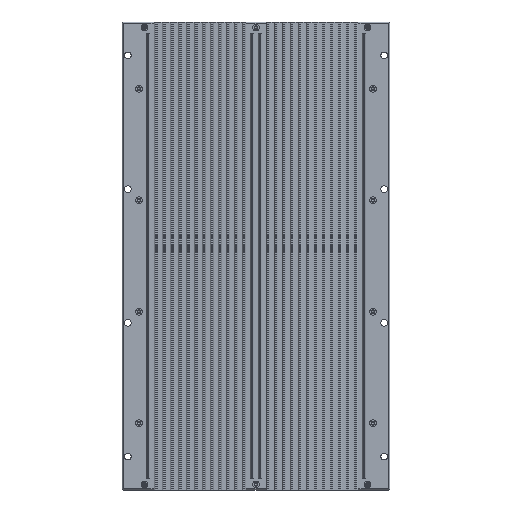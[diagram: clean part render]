
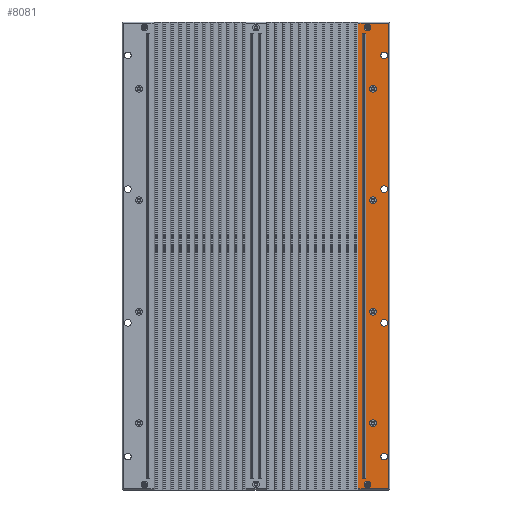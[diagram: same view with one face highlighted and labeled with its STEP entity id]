
A CAD part, front view. The second image highlights one B-rep face of the part: STEP entity #8081.
In plain terms, the highlighted planar face has unit normal (0, -1, 0).
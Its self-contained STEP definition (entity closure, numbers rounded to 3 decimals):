
#385=DIRECTION('',(1.,0.,0.));
#386=VECTOR('',#385,3.);
#387=CARTESIAN_POINT('',(95.4,-5.,200.));
#388=LINE('',#387,#386);
#389=DIRECTION('',(0.,0.,-1.));
#390=VECTOR('',#389,400.);
#391=CARTESIAN_POINT('',(95.4,-5.,200.));
#392=LINE('',#391,#390);
#393=DIRECTION('',(-1.,0.,0.));
#394=VECTOR('',#393,3.);
#395=CARTESIAN_POINT('',(98.4,-5.,-200.));
#396=LINE('',#395,#394);
#409=CARTESIAN_POINT('',(100.,-5.,-205.));
#410=DIRECTION('',(0.,-1.,0.));
#411=DIRECTION('',(1.,0.,0.));
#412=AXIS2_PLACEMENT_3D('',#409,#410,#411);
#414=CARTESIAN_POINT('',(100.,-5.,-205.));
#415=DIRECTION('',(0.,-1.,0.));
#416=DIRECTION('',(-1.,0.,0.));
#417=AXIS2_PLACEMENT_3D('',#414,#415,#416);
#419=CARTESIAN_POINT('',(105.,-5.,150.));
#420=DIRECTION('',(0.,-1.,0.));
#421=DIRECTION('',(-1.,0.,0.));
#422=AXIS2_PLACEMENT_3D('',#419,#420,#421);
#424=CARTESIAN_POINT('',(105.,-5.,150.));
#425=DIRECTION('',(0.,-1.,0.));
#426=DIRECTION('',(1.,0.,0.));
#427=AXIS2_PLACEMENT_3D('',#424,#425,#426);
#429=CARTESIAN_POINT('',(105.,-5.,50.));
#430=DIRECTION('',(0.,-1.,0.));
#431=DIRECTION('',(-1.,0.,0.));
#432=AXIS2_PLACEMENT_3D('',#429,#430,#431);
#434=CARTESIAN_POINT('',(105.,-5.,50.));
#435=DIRECTION('',(0.,-1.,0.));
#436=DIRECTION('',(1.,0.,0.));
#437=AXIS2_PLACEMENT_3D('',#434,#435,#436);
#439=CARTESIAN_POINT('',(105.,-5.,-50.));
#440=DIRECTION('',(0.,-1.,0.));
#441=DIRECTION('',(-1.,0.,0.));
#442=AXIS2_PLACEMENT_3D('',#439,#440,#441);
#444=CARTESIAN_POINT('',(105.,-5.,-50.));
#445=DIRECTION('',(0.,-1.,0.));
#446=DIRECTION('',(1.,0.,0.));
#447=AXIS2_PLACEMENT_3D('',#444,#445,#446);
#449=CARTESIAN_POINT('',(105.,-5.,-150.));
#450=DIRECTION('',(0.,-1.,0.));
#451=DIRECTION('',(-1.,0.,0.));
#452=AXIS2_PLACEMENT_3D('',#449,#450,#451);
#454=CARTESIAN_POINT('',(105.,-5.,-150.));
#455=DIRECTION('',(0.,-1.,0.));
#456=DIRECTION('',(1.,0.,0.));
#457=AXIS2_PLACEMENT_3D('',#454,#455,#456);
#459=CARTESIAN_POINT('',(100.,-5.,205.));
#460=DIRECTION('',(0.,-1.,0.));
#461=DIRECTION('',(1.,0.,0.));
#462=AXIS2_PLACEMENT_3D('',#459,#460,#461);
#464=CARTESIAN_POINT('',(100.,-5.,205.));
#465=DIRECTION('',(0.,-1.,0.));
#466=DIRECTION('',(-1.,0.,0.));
#467=AXIS2_PLACEMENT_3D('',#464,#465,#466);
#469=DIRECTION('',(1.,0.,0.));
#470=VECTOR('',#469,27.503);
#471=CARTESIAN_POINT('',(91.497,-5.,-209.));
#472=LINE('',#471,#470);
#473=DIRECTION('',(-1.,0.,0.));
#474=VECTOR('',#473,27.503);
#475=CARTESIAN_POINT('',(119.,-5.,209.));
#476=LINE('',#475,#474);
#477=DIRECTION('',(0.,0.,1.));
#478=VECTOR('',#477,418.);
#479=CARTESIAN_POINT('',(119.,-5.,-209.));
#480=LINE('',#479,#478);
#549=CARTESIAN_POINT('',(115.,-5.,-180.));
#550=DIRECTION('',(0.,1.,0.));
#551=DIRECTION('',(0.,0.,1.));
#552=AXIS2_PLACEMENT_3D('',#549,#550,#551);
#554=CARTESIAN_POINT('',(115.,-5.,-180.));
#555=DIRECTION('',(0.,1.,0.));
#556=DIRECTION('',(0.,0.,-1.));
#557=AXIS2_PLACEMENT_3D('',#554,#555,#556);
#559=CARTESIAN_POINT('',(115.,-5.,-60.));
#560=DIRECTION('',(0.,1.,0.));
#561=DIRECTION('',(0.,0.,1.));
#562=AXIS2_PLACEMENT_3D('',#559,#560,#561);
#564=CARTESIAN_POINT('',(115.,-5.,-60.));
#565=DIRECTION('',(0.,1.,0.));
#566=DIRECTION('',(0.,0.,-1.));
#567=AXIS2_PLACEMENT_3D('',#564,#565,#566);
#569=CARTESIAN_POINT('',(115.,-5.,60.));
#570=DIRECTION('',(0.,1.,0.));
#571=DIRECTION('',(0.,0.,1.));
#572=AXIS2_PLACEMENT_3D('',#569,#570,#571);
#574=CARTESIAN_POINT('',(115.,-5.,60.));
#575=DIRECTION('',(0.,1.,0.));
#576=DIRECTION('',(0.,0.,-1.));
#577=AXIS2_PLACEMENT_3D('',#574,#575,#576);
#579=CARTESIAN_POINT('',(115.,-5.,180.));
#580=DIRECTION('',(0.,1.,0.));
#581=DIRECTION('',(0.,0.,1.));
#582=AXIS2_PLACEMENT_3D('',#579,#580,#581);
#584=CARTESIAN_POINT('',(115.,-5.,180.));
#585=DIRECTION('',(0.,1.,0.));
#586=DIRECTION('',(0.,0.,-1.));
#587=AXIS2_PLACEMENT_3D('',#584,#585,#586);
#849=DIRECTION('',(0.,0.,-1.));
#850=VECTOR('',#849,400.);
#851=CARTESIAN_POINT('',(98.4,-5.,200.));
#852=LINE('',#851,#850);
#4617=DIRECTION('',(0.,0.,-1.));
#4618=VECTOR('',#4617,418.);
#4619=CARTESIAN_POINT('',(91.497,-5.,209.));
#4620=LINE('',#4619,#4618);
#6397=CARTESIAN_POINT('',(102.,-5.,150.));
#6398=CARTESIAN_POINT('',(108.,-5.,150.));
#6399=VERTEX_POINT('',#6397);
#6400=VERTEX_POINT('',#6398);
#6401=CARTESIAN_POINT('',(102.,-5.,50.));
#6402=CARTESIAN_POINT('',(108.,-5.,50.));
#6403=VERTEX_POINT('',#6401);
#6404=VERTEX_POINT('',#6402);
#6405=CARTESIAN_POINT('',(102.,-5.,-50.));
#6406=CARTESIAN_POINT('',(108.,-5.,-50.));
#6407=VERTEX_POINT('',#6405);
#6408=VERTEX_POINT('',#6406);
#6409=CARTESIAN_POINT('',(102.,-5.,-150.));
#6410=CARTESIAN_POINT('',(108.,-5.,-150.));
#6411=VERTEX_POINT('',#6409);
#6412=VERTEX_POINT('',#6410);
#6487=CARTESIAN_POINT('',(103.,-5.,205.));
#6488=VERTEX_POINT('',#6487);
#6489=CARTESIAN_POINT('',(103.,-5.,-205.));
#6490=VERTEX_POINT('',#6489);
#6493=CARTESIAN_POINT('',(98.4,-5.,-200.));
#6495=VERTEX_POINT('',#6493);
#6497=CARTESIAN_POINT('',(98.4,-5.,200.));
#6499=VERTEX_POINT('',#6497);
#6513=CARTESIAN_POINT('',(95.4,-5.,-200.));
#6514=VERTEX_POINT('',#6513);
#6515=CARTESIAN_POINT('',(95.4,-5.,200.));
#6516=VERTEX_POINT('',#6515);
#6595=CARTESIAN_POINT('',(97.,-5.,205.));
#6596=VERTEX_POINT('',#6595);
#6597=CARTESIAN_POINT('',(97.,-5.,-205.));
#6598=VERTEX_POINT('',#6597);
#6621=CARTESIAN_POINT('',(91.497,-5.,-209.));
#6622=CARTESIAN_POINT('',(119.,-5.,-209.));
#6623=VERTEX_POINT('',#6621);
#6624=VERTEX_POINT('',#6622);
#6627=CARTESIAN_POINT('',(119.,-5.,209.));
#6628=VERTEX_POINT('',#6627);
#6631=CARTESIAN_POINT('',(91.497,-5.,209.));
#6632=VERTEX_POINT('',#6631);
#6717=CARTESIAN_POINT('',(115.,-5.,-177.));
#6718=CARTESIAN_POINT('',(115.,-5.,-183.));
#6719=VERTEX_POINT('',#6717);
#6720=VERTEX_POINT('',#6718);
#6725=CARTESIAN_POINT('',(115.,-5.,-57.));
#6726=CARTESIAN_POINT('',(115.,-5.,-63.));
#6727=VERTEX_POINT('',#6725);
#6728=VERTEX_POINT('',#6726);
#6733=CARTESIAN_POINT('',(115.,-5.,63.));
#6734=CARTESIAN_POINT('',(115.,-5.,57.));
#6735=VERTEX_POINT('',#6733);
#6736=VERTEX_POINT('',#6734);
#6741=CARTESIAN_POINT('',(115.,-5.,183.));
#6742=CARTESIAN_POINT('',(115.,-5.,177.));
#6743=VERTEX_POINT('',#6741);
#6744=VERTEX_POINT('',#6742);
#7996=CARTESIAN_POINT('',(120.,-5.,210.));
#7997=DIRECTION('',(0.,-1.,0.));
#7998=DIRECTION('',(-1.,0.,0.));
#7999=AXIS2_PLACEMENT_3D('',#7996,#7997,#7998);
#8000=PLANE('',#7999);
#8002=ORIENTED_EDGE('',*,*,#8001,.F.);
#8004=ORIENTED_EDGE('',*,*,#8003,.F.);
#8006=ORIENTED_EDGE('',*,*,#8005,.F.);
#8008=ORIENTED_EDGE('',*,*,#8007,.F.);
#8009=EDGE_LOOP('',(#8002,#8004,#8006,#8008));
#8010=FACE_OUTER_BOUND('',#8009,.F.);
#8012=ORIENTED_EDGE('',*,*,#8011,.F.);
#8014=ORIENTED_EDGE('',*,*,#8013,.T.);
#8016=ORIENTED_EDGE('',*,*,#8015,.F.);
#8018=ORIENTED_EDGE('',*,*,#8017,.F.);
#8019=EDGE_LOOP('',(#8012,#8014,#8016,#8018));
#8020=FACE_BOUND('',#8019,.F.);
#8022=ORIENTED_EDGE('',*,*,#8021,.T.);
#8024=ORIENTED_EDGE('',*,*,#8023,.T.);
#8025=EDGE_LOOP('',(#8022,#8024));
#8026=FACE_BOUND('',#8025,.F.);
#8028=ORIENTED_EDGE('',*,*,#8027,.T.);
#8030=ORIENTED_EDGE('',*,*,#8029,.T.);
#8031=EDGE_LOOP('',(#8028,#8030));
#8032=FACE_BOUND('',#8031,.F.);
#8034=ORIENTED_EDGE('',*,*,#8033,.T.);
#8036=ORIENTED_EDGE('',*,*,#8035,.T.);
#8037=EDGE_LOOP('',(#8034,#8036));
#8038=FACE_BOUND('',#8037,.F.);
#8040=ORIENTED_EDGE('',*,*,#8039,.T.);
#8042=ORIENTED_EDGE('',*,*,#8041,.T.);
#8043=EDGE_LOOP('',(#8040,#8042));
#8044=FACE_BOUND('',#8043,.F.);
#8046=ORIENTED_EDGE('',*,*,#8045,.T.);
#8048=ORIENTED_EDGE('',*,*,#8047,.T.);
#8049=EDGE_LOOP('',(#8046,#8048));
#8050=FACE_BOUND('',#8049,.F.);
#8052=ORIENTED_EDGE('',*,*,#8051,.T.);
#8054=ORIENTED_EDGE('',*,*,#8053,.T.);
#8055=EDGE_LOOP('',(#8052,#8054));
#8056=FACE_BOUND('',#8055,.F.);
#8058=ORIENTED_EDGE('',*,*,#8057,.F.);
#8060=ORIENTED_EDGE('',*,*,#8059,.F.);
#8061=EDGE_LOOP('',(#8058,#8060));
#8062=FACE_BOUND('',#8061,.F.);
#8064=ORIENTED_EDGE('',*,*,#8063,.F.);
#8066=ORIENTED_EDGE('',*,*,#8065,.F.);
#8067=EDGE_LOOP('',(#8064,#8066));
#8068=FACE_BOUND('',#8067,.F.);
#8070=ORIENTED_EDGE('',*,*,#8069,.F.);
#8072=ORIENTED_EDGE('',*,*,#8071,.F.);
#8073=EDGE_LOOP('',(#8070,#8072));
#8074=FACE_BOUND('',#8073,.F.);
#8076=ORIENTED_EDGE('',*,*,#8075,.F.);
#8078=ORIENTED_EDGE('',*,*,#8077,.F.);
#8079=EDGE_LOOP('',(#8076,#8078));
#8080=FACE_BOUND('',#8079,.F.);
#413=CIRCLE('',#412,3.);
#418=CIRCLE('',#417,3.);
#423=CIRCLE('',#422,3.);
#428=CIRCLE('',#427,3.);
#433=CIRCLE('',#432,3.);
#438=CIRCLE('',#437,3.);
#443=CIRCLE('',#442,3.);
#448=CIRCLE('',#447,3.);
#453=CIRCLE('',#452,3.);
#458=CIRCLE('',#457,3.);
#463=CIRCLE('',#462,3.);
#468=CIRCLE('',#467,3.);
#553=CIRCLE('',#552,3.);
#558=CIRCLE('',#557,3.);
#563=CIRCLE('',#562,3.);
#568=CIRCLE('',#567,3.);
#573=CIRCLE('',#572,3.);
#578=CIRCLE('',#577,3.);
#583=CIRCLE('',#582,3.);
#588=CIRCLE('',#587,3.);
#8001=EDGE_CURVE('',#6623,#6624,#472,.T.);
#8003=EDGE_CURVE('',#6632,#6623,#4620,.T.);
#8005=EDGE_CURVE('',#6628,#6632,#476,.T.);
#8007=EDGE_CURVE('',#6624,#6628,#480,.T.);
#8011=EDGE_CURVE('',#6516,#6499,#388,.T.);
#8013=EDGE_CURVE('',#6516,#6514,#392,.T.);
#8015=EDGE_CURVE('',#6495,#6514,#396,.T.);
#8017=EDGE_CURVE('',#6499,#6495,#852,.T.);
#8021=EDGE_CURVE('',#6490,#6598,#413,.T.);
#8023=EDGE_CURVE('',#6598,#6490,#418,.T.);
#8027=EDGE_CURVE('',#6399,#6400,#423,.T.);
#8029=EDGE_CURVE('',#6400,#6399,#428,.T.);
#8033=EDGE_CURVE('',#6403,#6404,#433,.T.);
#8035=EDGE_CURVE('',#6404,#6403,#438,.T.);
#8039=EDGE_CURVE('',#6407,#6408,#443,.T.);
#8041=EDGE_CURVE('',#6408,#6407,#448,.T.);
#8045=EDGE_CURVE('',#6411,#6412,#453,.T.);
#8047=EDGE_CURVE('',#6412,#6411,#458,.T.);
#8051=EDGE_CURVE('',#6488,#6596,#463,.T.);
#8053=EDGE_CURVE('',#6596,#6488,#468,.T.);
#8057=EDGE_CURVE('',#6719,#6720,#553,.T.);
#8059=EDGE_CURVE('',#6720,#6719,#558,.T.);
#8063=EDGE_CURVE('',#6727,#6728,#563,.T.);
#8065=EDGE_CURVE('',#6728,#6727,#568,.T.);
#8069=EDGE_CURVE('',#6735,#6736,#573,.T.);
#8071=EDGE_CURVE('',#6736,#6735,#578,.T.);
#8075=EDGE_CURVE('',#6743,#6744,#583,.T.);
#8077=EDGE_CURVE('',#6744,#6743,#588,.T.);
#8081=ADVANCED_FACE('',(#8010,#8020,#8026,#8032,#8038,#8044,#8050,#8056,#8062,
#8068,#8074,#8080),#8000,.T.);
